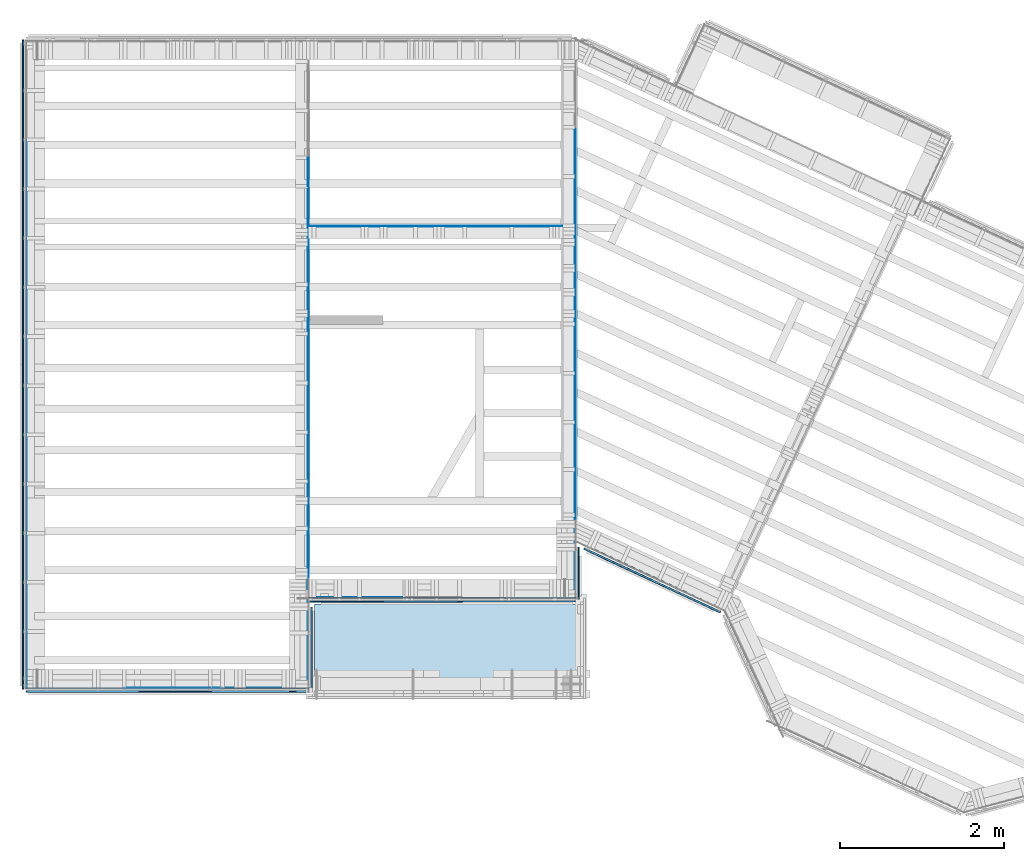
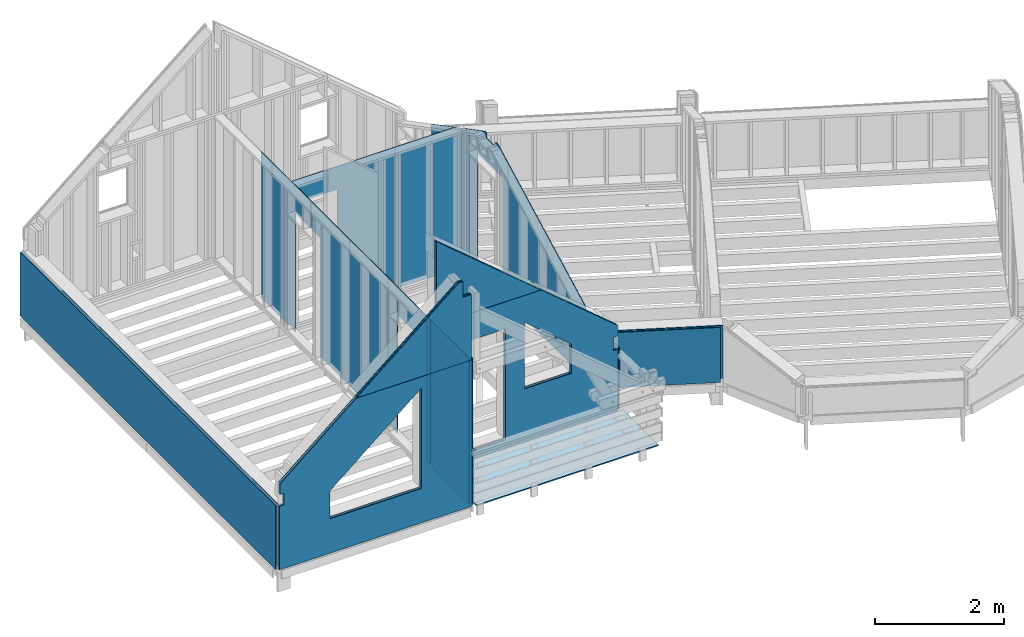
# One storey, part 22 of 24: 41 plates.
"""IFC2X3 building model written with IfcOpenShell, lengths in metres."""

from ifc_helpers import new_model, si_unit, direction, frame, origin_with_axes, place, context, subcontext, project, spatial, faceted_brep, material, element, save


model = new_model("IFC2X3")

# Units and contexts
model_context = context("Model", 3, precision=1e-06, world=origin_with_axes(), true_north=direction((0.0, 1.0, 0.0)))
body_context = subcontext(model_context, "Body", "Model", "MODEL_VIEW")
ifc_project = project(units=[si_unit("LENGTHUNIT", "METRE"), si_unit("AREAUNIT", "SQUARE_METRE"), si_unit("VOLUMEUNIT", "CUBIC_METRE"), si_unit("PLANEANGLEUNIT", "RADIAN")], contexts=[model_context])

# Site, building, storey
site_placement = place(None, origin_with_axes())
site = spatial("IfcSite", under=ifc_project, at=site_placement, CompositionType="ELEMENT")
building_placement = place(site_placement, origin_with_axes())
building = spatial("IfcBuilding", under=site, at=building_placement, Name="Building 1", CompositionType="ELEMENT")
storey_placement = place(building_placement, origin_with_axes())
storey = spatial("IfcBuildingStorey", under=building, at=storey_placement, Name="Premier Etage", CompositionType="ELEMENT", Elevation=0.0)

# Plates
ifc_material_1 = material(Name="OSB")
plate_1_placement = place(storey_placement, frame((6.702, 3.8494744, 2.81), z_axis=(1.0, 0.0, 0.0), x_axis=(0.0, 0.0, 1.0)))
element("IfcPlate", 1, at=plate_1_placement, inside=storey, material=ifc_material_1, Name="Panneau de contreventement MFP", context=body_context, shape_type="Brep", body=[
    faceted_brep([(1.9990035, 0.598, 0.006), (2.624819, -0.598, 0.006), (2.624819, -0.598, -0.006), (1.9990035, 0.598, -0.006), (0.0, -0.598, 0.006), (0.0, -0.598, -0.006), (0.0, 0.598, 0.006), (0.0, 0.598, -0.006)], [[[0, 1, 2, 3]], [[2, 1, 4, 5]], [[1, 0, 6, 4]], [[5, 4, 6, 7]], [[0, 3, 7, 6]], [[3, 2, 5, 7]]]),
])
plate_2_placement = place(storey_placement, frame((0.006, 6.098, 4.0228151), z_axis=(-1.0, 0.0, 0.0), x_axis=(0.0, 0.0, -1.0)))
element("IfcPlate", 2, at=plate_2_placement, inside=storey, material=ifc_material_1, Name="Panneau de contreventement MFP", context=body_context, shape_type="Brep", body=[
    faceted_brep([(1.2128151, 0.598, -0.006), (0.0, 0.598, -0.006), (0.0, 0.598, 0.006), (1.2128151, 0.598, 0.006), (0.0, -0.598, -0.006), (0.0, -0.598, 0.006), (1.2128151, -0.598, -0.006), (1.2128151, -0.598, 0.006)], [[[0, 1, 2, 3]], [[2, 1, 4, 5]], [[1, 0, 6, 4]], [[5, 4, 6, 7]], [[0, 3, 7, 6]], [[3, 2, 5, 7]]]),
])
plate_3_placement = place(storey_placement, frame((3.442, 0.61, 2.81), z_axis=(1.0, 0.0, 0.0), x_axis=(0.0, 0.0, 1.0)))
element("IfcPlate", 3, at=plate_3_placement, inside=storey, material=ifc_material_1, Name="Panneau de contreventement MFP", context=body_context, shape_type="Brep", body=[
    faceted_brep([(0.0, -0.5028281, -0.006), (0.04, -0.5028281, -0.006), (0.04, -0.5028281, 0.006), (0.0, -0.5028281, 0.006), (0.04, -0.598, -0.006), (0.04, -0.598, 0.006), (0.0, 0.598, 0.006), (0.0, 0.598, -0.006), (2.7704713, -0.598, 0.006), (2.7704713, 0.598, 0.006), (2.7704713, -0.598, -0.006), (2.7704713, 0.598, -0.006)], [[[0, 1, 2, 3]], [[1, 4, 5, 2]], [[0, 3, 6, 7]], [[3, 2, 5, 8, 9, 6]], [[5, 4, 10, 8]], [[1, 0, 7, 11, 10, 4]], [[8, 10, 11, 9]], [[9, 11, 7, 6]]]),
])
plate_4_placement = place(storey_placement, frame((1.8162754, 0.006, 5.5854713), z_axis=(0.0, -1.0, 0.0), x_axis=(0.0, 0.0, 1.0)))
element("IfcPlate", 4, at=plate_4_placement, inside=storey, material=ifc_material_1, Name="Panneau de contreventement MFP", context=body_context, shape_type="Brep", body=[
    faceted_brep([(0.0, -0.4317246, -0.006), (0.7245199, -0.4317246, -0.006), (0.7245199, -0.4317246, 0.006), (0.0, -0.4317246, 0.006), (0.0, 0.4317246, -0.006), (0.0, 0.4317246, 0.006)], [[[0, 1, 2, 3]], [[2, 1, 4, 5]], [[1, 0, 4]], [[0, 3, 5, 4]], [[3, 2, 5]]]),
])
ifc_material_2 = material(Name="Mélèze")
plate_5_placement = place(storey_placement, frame((1.724, -0.0355, 2.81), z_axis=(0.0, -1.0, 0.0), x_axis=(0.0, 0.0, 1.0)))
element("IfcPlate", 5, at=plate_5_placement, inside=storey, material=ifc_material_2, Name="Bardage", context=body_context, shape_type="Brep", body=[
    faceted_brep([(1.4228151, 1.709, -0.0105), (1.4228151, 1.709, 0.0105), (1.6262817, 1.709, 0.0105), (1.6262817, 1.709, -0.0105), (2.7704713, 0.3454079, 0.0105), (2.7704713, 0.3454079, -0.0105), (1.4228151, 1.639, 0.0105), (1.2078151, 1.639, 0.0105), (1.2078151, 1.724, 0.0105), (0.0, 1.724, 0.0105), (0.0, -1.724, 0.0105), (2.7704713, -1.724, 0.0105), (1.1768766, 0.82, 0.0105), (2.553, -0.82, 0.0105), (0.653, -0.82, 0.0105), (0.653, 0.82, 0.0105), (1.2078151, 1.639, -0.0105), (1.2078151, 1.724, -0.0105), (1.4228151, 1.639, -0.0105), (0.0, 1.724, -0.0105), (2.553, -0.82, -0.0105), (0.653, -0.82, -0.0105), (0.653, 0.82, -0.0105), (1.1768766, 0.82, -0.0105), (2.7704713, -1.724, -0.0105), (0.0, -1.724, -0.0105)], [[[0, 1, 2, 3]], [[3, 2, 4, 5]], [[2, 1, 6, 7, 8, 9, 10, 11, 4], [12, 13, 14, 15]], [[8, 7, 16, 17]], [[7, 6, 18, 16]], [[1, 0, 18, 6]], [[8, 17, 19, 9]], [[20, 21, 14, 13]], [[21, 22, 15, 14]], [[23, 20, 13, 12]], [[22, 23, 12, 15]], [[0, 3, 5, 24, 25, 19, 17, 16, 18], [20, 23, 22, 21]], [[10, 25, 24, 11]], [[9, 19, 25, 10]], [[5, 4, 11, 24]]]),
])
plate_6_placement = place(storey_placement, frame((6.702, 5.0494744, 2.81), z_axis=(1.0, 0.0, 0.0), x_axis=(0.0, 0.0, 1.0)))
element("IfcPlate", 6, at=plate_6_placement, inside=storey, material=ifc_material_1, Name="Panneau de contreventement MFP", context=body_context, shape_type="Brep", body=[
    faceted_brep([(2.8, 0.2672104, -0.006), (2.626912, 0.598, -0.006), (2.626912, 0.598, 0.006), (2.8, 0.2672104, 0.006), (0.0, 0.598, -0.006), (0.0, 0.598, 0.006), (2.8, 0.211449, -0.006), (2.7043053, 0.211449, -0.006), (2.7043053, -0.0824369, -0.006), (2.8, -0.0824369, -0.006), (2.8, -0.1270796, -0.006), (2.5535876, -0.598, -0.006), (0.0, -0.598, -0.006), (0.0, -0.3507432, -0.006), (2.251, -0.3507432, -0.006), (2.251, 0.4292568, -0.006), (0.0, 0.4292568, -0.006), (2.8, -0.1270796, 0.006), (2.5535876, -0.598, 0.006), (2.8, -0.0824369, 0.006), (2.7043053, 0.211449, 0.006), (2.7043053, -0.0824369, 0.006), (2.8, 0.211449, 0.006), (2.251, -0.3507432, 0.006), (2.251, 0.4292568, 0.006), (0.0, -0.3507432, 0.006), (0.0, 0.4292568, 0.006), (0.0, -0.598, 0.006)], [[[0, 1, 2, 3]], [[2, 1, 4, 5]], [[1, 0, 6, 7, 8, 9, 10, 11, 12, 13, 14, 15, 16, 4]], [[11, 10, 17, 18]], [[17, 10, 9, 19]], [[8, 7, 20, 21]], [[7, 6, 22, 20]], [[0, 3, 22, 6]], [[23, 24, 15, 14]], [[13, 25, 23, 14]], [[26, 16, 15, 24]], [[5, 4, 16, 26]], [[12, 27, 25, 13]], [[11, 18, 27, 12]], [[3, 2, 5, 26, 24, 23, 25, 27, 18, 17, 19, 21, 20, 22]], [[21, 19, 9, 8]]]),
])
plate_7_placement = place(storey_placement, frame((6.7435, 1.4080203, 2.81), z_axis=(1.0, 0.0, 0.0), x_axis=(0.0, 0.0, 1.0)))
element("IfcPlate", 7, at=plate_7_placement, inside=storey, material=ifc_material_2, Name="Bardage", context=body_context, shape_type="Brep", body=[
    faceted_brep([(1.1678151, -0.3151922, 0.0105), (1.1678151, 0.3151922, 0.0105), (0.0, 0.3151922, 0.0105), (0.0, -0.3151922, 0.0105), (0.0, -0.3151922, -0.0105), (0.0, 0.3151922, -0.0105), (1.1678151, 0.3151922, -0.0105), (1.1678151, -0.3151922, -0.0105)], [[[0, 1, 2, 3]], [[4, 3, 2, 5]], [[6, 7, 4, 5]], [[1, 6, 5, 2]], [[0, 7, 6, 1]], [[7, 0, 3, 4]]]),
])
plate_8_placement = place(storey_placement, frame((0.006, 0.354, 4.0228151), z_axis=(-1.0, 0.0, 0.0), x_axis=(0.0, 0.0, -1.0)))
element("IfcPlate", 8, at=plate_8_placement, inside=storey, material=ifc_material_1, Name="Panneau de contreventement MFP", context=body_context, shape_type="Brep", body=[
    faceted_brep([(0.0, -0.342, -0.006), (1.2128151, -0.342, -0.006), (1.2128151, -0.342, 0.006), (0.0, -0.342, 0.006), (1.2128151, 0.192, -0.006), (1.2128151, 0.192, 0.006), (0.0, 0.342, -0.006), (1.1728151, 0.342, -0.006), (1.1728151, 0.192, -0.006), (1.1728151, 0.342, 0.006), (1.1728151, 0.192, 0.006), (0.0, 0.342, 0.006)], [[[0, 1, 2, 3]], [[2, 1, 4, 5]], [[1, 0, 6, 7, 8, 4]], [[9, 10, 8, 7]], [[10, 5, 4, 8]], [[9, 7, 6, 11]], [[3, 2, 5, 10, 9, 11]], [[0, 3, 11, 6]]]),
])
plate_9_placement = place(storey_placement, frame((0.006, 4.898, 4.0228151), z_axis=(-1.0, 0.0, 0.0), x_axis=(0.0, 0.0, -1.0)))
element("IfcPlate", 9, at=plate_9_placement, inside=storey, material=ifc_material_1, Name="Panneau de contreventement MFP", context=body_context, shape_type="Brep", body=[
    faceted_brep([(1.2128151, 0.598, -0.006), (0.0, 0.598, -0.006), (0.0, 0.598, 0.006), (1.2128151, 0.598, 0.006), (0.0, -0.598, -0.006), (0.0, -0.598, 0.006), (1.2128151, -0.598, -0.006), (1.2128151, -0.598, 0.006)], [[[0, 1, 2, 3]], [[2, 1, 4, 5]], [[1, 0, 6, 4]], [[5, 4, 6, 7]], [[0, 3, 7, 6]], [[3, 2, 5, 7]]]),
])
plate_10_placement = place(storey_placement, frame((6.278, 1.1068281, 2.81), z_axis=(0.0, 1.0, 0.0), x_axis=(0.0, 0.0, 1.0)))
element("IfcPlate", 10, at=plate_10_placement, inside=storey, material=ifc_material_1, Name="Panneau de contreventement MFP", context=body_context, shape_type="Brep", body=[
    faceted_brep([(1.4228151, 0.415, -0.006), (1.4228151, 0.415, 0.006), (1.6261452, 0.415, 0.006), (1.6261452, 0.415, -0.006), (2.3351844, -0.43, 0.006), (2.3351844, -0.43, -0.006), (1.4228151, 0.345, 0.006), (1.1678151, 0.345, 0.006), (1.1678151, 0.43, 0.006), (0.0, 0.43, 0.006), (0.0, -0.43, 0.006), (1.003, -0.43, 0.006), (1.003, -0.4054611, 0.006), (1.5561563, -0.4054611, 0.006), (1.5767469, -0.43, 0.006), (1.4228151, 0.345, -0.006), (1.1678151, 0.345, -0.006), (1.1678151, 0.43, -0.006), (0.0, 0.43, -0.006), (1.003, -0.4054611, -0.006), (1.5561563, -0.4054611, -0.006), (1.003, -0.43, -0.006), (1.5767469, -0.43, -0.006), (0.0, -0.43, -0.006)], [[[0, 1, 2, 3]], [[3, 2, 4, 5]], [[2, 1, 6, 7, 8, 9, 10, 11, 12, 13, 14, 4]], [[1, 0, 15, 6]], [[15, 16, 7, 6]], [[16, 17, 8, 7]], [[8, 17, 18, 9]], [[19, 20, 13, 12]], [[21, 19, 12, 11]], [[20, 22, 14, 13]], [[0, 3, 5, 22, 20, 19, 21, 23, 18, 17, 16, 15]], [[21, 11, 10, 23]], [[14, 22, 5, 4]], [[23, 10, 9, 18]]]),
])
plate_11_placement = place(storey_placement, frame((5.07925, 1.0653281, 2.81), z_axis=(-1.0, 0.0, 0.0), x_axis=(0.0, 0.0, 1.0)))
element("IfcPlate", 11, at=plate_11_placement, inside=storey, material=ifc_material_2, Name="Bardage", context=body_context, shape_type="Brep", body=[
    faceted_brep([(1.4228151, -0.0105, -1.61375), (1.4228151, 0.0105, -1.61375), (1.6261452, 0.0105, -1.61375), (1.6261452, -0.0105, -1.61375), (2.7704713, 0.0105, -0.2499953), (2.7704713, -0.0105, -0.2499953), (1.4228151, 0.0105, -1.54375), (1.1678151, 0.0105, -1.54375), (1.1678151, 0.0105, -1.62875), (0.0, 0.0105, -1.62875), (0.0, 0.0105, 1.62875), (2.7704713, 0.0105, 1.62875), (1.5561563, 0.0105, -0.7932889), (2.261, 0.0105, 0.0467111), (1.003, 0.0105, 0.0467111), (1.003, 0.0105, -0.7932889), (2.261, 0.0105, 0.3901003), (2.261, 0.0105, 1.2301003), (0.153, 0.0105, 1.2301003), (0.153, 0.0105, 0.3901003), (1.4228151, -0.0105, -1.54375), (1.1678151, -0.0105, -1.54375), (1.1678151, -0.0105, -1.62875), (0.0, -0.0105, -1.62875), (2.7704713, -0.0105, 1.62875), (0.0, -0.0105, 1.62875), (2.261, -0.0105, 0.3901003), (0.153, -0.0105, 0.3901003), (0.153, -0.0105, 1.2301003), (2.261, -0.0105, 1.2301003), (2.261, -0.0105, 0.0467111), (1.5561563, -0.0105, -0.7932889), (1.003, -0.0105, -0.7932889), (1.003, -0.0105, 0.0467111)], [[[0, 1, 2, 3]], [[3, 2, 4, 5]], [[2, 1, 6, 7, 8, 9, 10, 11, 4], [12, 13, 14, 15], [16, 17, 18, 19]], [[7, 6, 20, 21]], [[8, 7, 21, 22]], [[1, 0, 20, 6]], [[8, 22, 23, 9]], [[0, 3, 5, 24, 25, 23, 22, 21, 20], [26, 27, 28, 29], [30, 31, 32, 33]], [[15, 14, 33, 32]], [[12, 15, 32, 31]], [[13, 12, 31, 30]], [[14, 13, 30, 33]], [[18, 17, 29, 28]], [[19, 18, 28, 27]], [[16, 19, 27, 26]], [[17, 16, 26, 29]], [[23, 25, 10, 9]], [[10, 25, 24, 11]], [[5, 4, 11, 24]]]),
])
plate_12_placement = place(storey_placement, frame((6.702, 2.0494744, 3.3964076), z_axis=(1.0, 0.0, 0.0), x_axis=(0.0, -1.0, 0.0)))
element("IfcPlate", 12, at=plate_12_placement, inside=storey, material=ifc_material_1, Name="Panneau de contreventement MFP", context=body_context, shape_type="Brep", body=[
    faceted_brep([(0.2408158, 0.5864076, -0.006), (0.2408158, 0.5464076, -0.006), (0.2408158, 0.5464076, 0.006), (0.2408158, 0.5864076, 0.006), (0.7866462, 0.5864076, 0.006), (0.7866462, 0.5864076, -0.006), (0.0, 0.5464076, 0.006), (0.0, 0.5464076, -0.006), (0.7866462, 0.5464076, -0.006), (0.9366462, 0.5464076, -0.006), (0.9366462, -0.5864076, -0.006), (0.3237619, -0.5864076, -0.006), (0.3237619, -0.4622333, -0.006), (0.132606, -0.4622333, -0.006), (0.132606, -0.5864076, -0.006), (0.0, -0.5864076, -0.006), (0.3237619, -0.4622333, 0.006), (0.132606, -0.4622333, 0.006), (0.0, -0.5864076, 0.006), (0.132606, -0.5864076, 0.006), (0.3237619, -0.5864076, 0.006), (0.9366462, -0.5864076, 0.006), (0.9366462, 0.5464076, 0.006), (0.7866462, 0.5464076, 0.006)], [[[0, 1, 2, 3]], [[0, 3, 4, 5]], [[6, 2, 1, 7]], [[1, 0, 5, 8, 9, 10, 11, 12, 13, 14, 15, 7]], [[16, 17, 13, 12]], [[2, 6, 18, 19, 17, 16, 20, 21, 22, 23, 4, 3]], [[20, 11, 10, 21]], [[17, 19, 14, 13]], [[6, 7, 15, 18]], [[23, 22, 9, 8]], [[5, 4, 23, 8]], [[9, 22, 21, 10]], [[14, 19, 18, 15]], [[12, 11, 20, 16]]]),
])
plate_13_placement = place(storey_placement, frame((-0.0355, 3.954, 2.81), z_axis=(-1.0, 0.0, 0.0), x_axis=(0.0, 0.0, 1.0)))
element("IfcPlate", 13, at=plate_13_placement, inside=storey, material=ifc_material_2, Name="Bardage", context=body_context, shape_type="Brep", body=[
    faceted_brep([(1.2078151, 3.962, 0.0105), (1.2078151, 3.962, -0.0105), (0.0, 3.962, -0.0105), (0.0, 3.962, 0.0105), (1.2078151, -3.962, -0.0105), (0.0, -3.962, -0.0105), (1.2078151, -3.962, 0.0105), (0.0, -3.962, 0.0105)], [[[0, 1, 2, 3]], [[1, 4, 5, 2]], [[6, 0, 3, 7]], [[6, 4, 1, 0]], [[2, 5, 7, 3]], [[4, 6, 7, 5]]]),
])
plate_14_placement = place(storey_placement, frame((3.7995, 5.6412176, 2.81), z_axis=(0.0, 1.0, 0.0), x_axis=(0.0, 0.0, 1.0)))
element("IfcPlate", 14, at=plate_14_placement, inside=storey, material=ifc_material_1, Name="Panneau de contreventement MFP", context=body_context, shape_type="Brep", body=[
    faceted_brep([(2.251, 0.3515, -0.006), (2.251, 0.3515, 0.006), (2.6893053, 0.3515, 0.006), (2.6893053, 0.3515, -0.006), (2.6893053, -0.3515, -0.006), (0.0, -0.3515, -0.006), (0.0, -0.2615, -0.006), (2.251, -0.2615, -0.006), (2.251, -0.2615, 0.006), (2.6893053, -0.3515, 0.006), (0.0, -0.2615, 0.006), (0.0, -0.3515, 0.006)], [[[0, 1, 2, 3]], [[0, 3, 4, 5, 6, 7]], [[1, 0, 7, 8]], [[3, 2, 9, 4]], [[2, 1, 8, 10, 11, 9]], [[6, 10, 8, 7]], [[10, 6, 5, 11]], [[4, 9, 11, 5]]]),
])
plate_15_placement = place(storey_placement, frame((0.006, 3.698, 4.0228151), z_axis=(-1.0, 0.0, 0.0), x_axis=(0.0, 0.0, -1.0)))
element("IfcPlate", 15, at=plate_15_placement, inside=storey, material=ifc_material_1, Name="Panneau de contreventement MFP", context=body_context, shape_type="Brep", body=[
    faceted_brep([(1.2128151, 0.598, -0.006), (0.0, 0.598, -0.006), (0.0, 0.598, 0.006), (1.2128151, 0.598, 0.006), (0.0, -0.598, -0.006), (0.0, -0.598, 0.006), (1.2128151, -0.598, -0.006), (1.2128151, -0.598, 0.006)], [[[0, 1, 2, 3]], [[2, 1, 4, 5]], [[1, 0, 6, 4]], [[5, 4, 6, 7]], [[0, 3, 7, 6]], [[3, 2, 5, 7]]]),
])
plate_16_placement = place(storey_placement, frame((0.598, 0.006, 2.81), z_axis=(0.0, -1.0, 0.0), x_axis=(0.0, 0.0, 1.0)))
element("IfcPlate", 16, at=plate_16_placement, inside=storey, material=ifc_material_1, Name="Panneau de contreventement MFP", context=body_context, shape_type="Brep", body=[
    faceted_brep([(1.4228151, 0.583, -0.006), (1.4228151, 0.583, 0.006), (1.6262817, 0.583, 0.006), (1.6262817, 0.583, -0.006), (2.6172584, -0.598, 0.006), (2.6172584, -0.598, -0.006), (1.4228151, 0.513, 0.006), (1.2078151, 0.513, 0.006), (1.2078151, 0.598, 0.006), (0.0, 0.598, 0.006), (0.0, -0.598, 0.006), (0.653, -0.598, 0.006), (0.653, -0.306, 0.006), (1.1768766, -0.306, 0.006), (1.4218937, -0.598, 0.006), (1.2078151, 0.513, -0.006), (1.2078151, 0.598, -0.006), (1.4228151, 0.513, -0.006), (0.0, 0.598, -0.006), (0.653, -0.598, -0.006), (0.653, -0.306, -0.006), (1.1768766, -0.306, -0.006), (1.4218937, -0.598, -0.006), (0.0, -0.598, -0.006)], [[[0, 1, 2, 3]], [[3, 2, 4, 5]], [[2, 1, 6, 7, 8, 9, 10, 11, 12, 13, 14, 4]], [[8, 7, 15, 16]], [[7, 6, 17, 15]], [[1, 0, 17, 6]], [[8, 16, 18, 9]], [[11, 19, 20, 12]], [[13, 12, 20, 21]], [[22, 14, 13, 21]], [[14, 22, 5, 4]], [[19, 11, 10, 23]], [[23, 10, 9, 18]], [[0, 3, 5, 22, 21, 20, 19, 23, 18, 16, 15, 17]]]),
])
plate_17_placement = place(storey_placement, frame((2.924, 0.006, 2.81), z_axis=(0.0, -1.0, 0.0), x_axis=(0.0, 0.0, 1.0)))
element("IfcPlate", 17, at=plate_17_placement, inside=storey, material=ifc_material_1, Name="Panneau de contreventement MFP", context=body_context, shape_type="Brep", body=[
    faceted_brep([(0.653, 0.524, 0.006), (0.653, 0.38, 0.006), (0.653, 0.38, -0.006), (0.653, 0.524, -0.006), (2.553, 0.38, 0.006), (2.4321697, 0.524, 0.006), (2.4321697, 0.524, -0.006), (2.553, 0.38, -0.006), (2.7704713, 0.524, 0.006), (2.7704713, 0.524, -0.006), (0.0, 0.524, -0.006), (0.0, 0.524, 0.006), (2.7704713, -0.524, -0.006), (0.0, -0.524, -0.006), (0.0, -0.524, 0.006), (2.7704713, -0.524, 0.006)], [[[0, 1, 2, 3]], [[4, 5, 6, 7]], [[1, 4, 7, 2]], [[6, 5, 8, 9]], [[0, 3, 10, 11]], [[10, 3, 2, 7, 6, 9, 12, 13]], [[1, 0, 11, 14, 15, 8, 5, 4]], [[11, 10, 13, 14]], [[12, 15, 14, 13]], [[9, 8, 15, 12]]]),
])
plate_18_placement = place(storey_placement, frame((1.798, 0.006, 2.81), z_axis=(0.0, -1.0, 0.0), x_axis=(0.0, 0.0, 1.0)))
element("IfcPlate", 18, at=plate_18_placement, inside=storey, material=ifc_material_1, Name="Panneau de contreventement MFP", context=body_context, shape_type="Brep", body=[
    faceted_brep([(0.653, -0.598, 0.006), (0.653, 0.598, 0.006), (0.0, 0.598, 0.006), (0.0, -0.598, 0.006), (0.653, -0.598, -0.006), (0.0, -0.598, -0.006), (0.653, 0.598, -0.006), (0.0, 0.598, -0.006)], [[[0, 1, 2, 3]], [[4, 0, 3, 5]], [[1, 0, 4, 6]], [[1, 6, 7, 2]], [[4, 5, 7, 6]], [[5, 3, 2, 7]]]),
])
plate_19_placement = place(storey_placement, frame((3.4835, 0.4939141, 2.81), z_axis=(1.0, 0.0, 0.0), x_axis=(0.0, 0.0, 1.0)))
element("IfcPlate", 19, at=plate_19_placement, inside=storey, material=ifc_material_2, Name="Bardage", context=body_context, shape_type="Brep", body=[
    faceted_brep([(2.7704713, -0.5019141, -0.0105), (0.0, -0.5019141, -0.0105), (0.0, 0.5019141, -0.0105), (2.7704713, 0.5019141, -0.0105), (2.7704713, -0.5019141, 0.0105), (2.7704713, 0.5019141, 0.0105), (0.0, -0.5019141, 0.0105), (0.0, 0.5019141, 0.0105)], [[[0, 1, 2, 3]], [[4, 0, 3, 5]], [[6, 4, 5, 7]], [[1, 6, 7, 2]], [[6, 1, 0, 4]], [[2, 7, 5, 3]]]),
])
plate_20_placement = place(storey_placement, frame((3.442, 4.3308281, 2.81), z_axis=(1.0, 0.0, 0.0), x_axis=(0.0, 0.0, 1.0)))
element("IfcPlate", 20, at=plate_20_placement, inside=storey, material=ifc_material_1, Name="Panneau de contreventement MFP", context=body_context, shape_type="Brep", body=[
    faceted_brep([(2.251, -0.598, 0.006), (2.251, -0.598, -0.006), (2.7704713, -0.598, -0.006), (2.7704713, -0.598, 0.006), (2.7704713, 0.598, 0.006), (0.0, 0.598, 0.006), (0.0, -0.2917807, 0.006), (2.251, -0.2917807, 0.006), (2.251, -0.2917807, -0.006), (2.7704713, 0.598, -0.006), (0.0, 0.598, -0.006), (0.0, -0.2917807, -0.006)], [[[0, 1, 2, 3]], [[0, 3, 4, 5, 6, 7]], [[1, 0, 7, 8]], [[3, 2, 9, 4]], [[10, 5, 4, 9]], [[5, 10, 11, 6]], [[2, 1, 8, 11, 10, 9]], [[6, 11, 8, 7]]]),
])
plate_21_placement = place(storey_placement, frame((4.3868932, 1.0653281, 5.5854713), z_axis=(-1.0, 0.0, 0.0), x_axis=(0.0, 0.0, 1.0)))
element("IfcPlate", 21, at=plate_21_placement, inside=storey, material=ifc_material_2, Name="Bardage", context=body_context, shape_type="Brep", body=[
    faceted_brep([(0.0, -0.0105, -0.9363932), (0.0, 0.0105, -0.9363932), (1.5714545, 0.0105, 0.9363932), (1.5714545, -0.0105, 0.9363932), (0.0, 0.0105, 0.9363932), (0.0, -0.0105, 0.9363932)], [[[0, 1, 2, 3]], [[2, 1, 4]], [[1, 0, 5, 4]], [[3, 2, 4, 5]], [[0, 3, 5]]]),
])
plate_22_placement = place(storey_placement, frame((8.5279699, 0.9533724, 3.3343204), z_axis=(-0.4226183, -0.9063078, 0.0), x_axis=(-0.9063078, 0.4226183, 0.0)))
element("IfcPlate", 22, at=plate_22_placement, inside=storey, material=ifc_material_1, Name="Panneau de contreventement MFP", context=body_context, shape_type="Brep", body=[
    faceted_brep([(0.0, 0.4843204, 0.006), (0.15, 0.4843204, 0.006), (0.15, 0.4843204, -0.006), (0.0, 0.4843204, -0.006), (0.15, 0.5243204, 0.006), (0.15, 0.5243204, -0.006), (0.0, -0.5243204, -0.006), (0.0, -0.5243204, 0.006), (1.8554963, 0.5243204, -0.006), (1.8554963, 0.4843204, -0.006), (2.0054963, 0.4843204, -0.006), (2.0054963, -0.5243204, -0.006), (1.8554963, 0.4843204, 0.006), (2.0054963, 0.4843204, 0.006), (1.8554963, 0.5243204, 0.006), (2.0054963, -0.5243204, 0.006)], [[[0, 1, 2, 3]], [[1, 4, 5, 2]], [[0, 3, 6, 7]], [[3, 2, 5, 8, 9, 10, 11, 6]], [[12, 13, 10, 9]], [[8, 14, 12, 9]], [[5, 4, 14, 8]], [[10, 13, 15, 11]], [[11, 15, 7, 6]], [[1, 0, 7, 15, 13, 12, 14, 4]]]),
])
plate_23_placement = place(storey_placement, frame((0.006, 2.498, 4.0228151), z_axis=(-1.0, 0.0, 0.0), x_axis=(0.0, 0.0, -1.0)))
element("IfcPlate", 23, at=plate_23_placement, inside=storey, material=ifc_material_1, Name="Panneau de contreventement MFP", context=body_context, shape_type="Brep", body=[
    faceted_brep([(1.2128151, 0.598, -0.006), (0.0, 0.598, -0.006), (0.0, 0.598, 0.006), (1.2128151, 0.598, 0.006), (0.0, -0.598, -0.006), (0.0, -0.598, 0.006), (1.2128151, -0.598, -0.006), (1.2128151, -0.598, 0.006)], [[[0, 1, 2, 3]], [[2, 1, 4, 5]], [[1, 0, 6, 4]], [[5, 4, 6, 7]], [[0, 3, 7, 6]], [[3, 2, 5, 7]]]),
])
plate_24_placement = place(storey_placement, frame((2.4162754, -0.0355, 5.5854713), z_axis=(0.0, -1.0, 0.0), x_axis=(0.0, 0.0, 1.0)))
element("IfcPlate", 24, at=plate_24_placement, inside=storey, material=ifc_material_2, Name="Bardage", context=body_context, shape_type="Brep", body=[
    faceted_brep([(1.24, -0.8727246, -0.0105), (1.5367683, -0.8726432, -0.0105), (1.5367683, -0.8726432, 0.0105), (1.24, -0.8727246, 0.0105), (1.24, -1.0317246, -0.0105), (1.24, -1.0317246, 0.0105), (0.0, -1.0317246, 0.0105), (0.0, -1.0317246, -0.0105), (1.5367683, -0.7997246, 0.0105), (0.0, 1.0317246, 0.0105), (0.0, 1.0317246, -0.0105), (1.5367683, -0.7997246, -0.0105)], [[[0, 1, 2, 3]], [[4, 0, 3, 5]], [[4, 5, 6, 7]], [[5, 3, 2, 8, 9, 6]], [[10, 9, 8, 11]], [[9, 10, 7, 6]], [[0, 4, 7, 10, 11, 1]], [[2, 1, 11, 8]]]),
])
plate_25_placement = place(storey_placement, frame((2.85, 0.006, 5.5854713), z_axis=(0.0, -1.0, 0.0), x_axis=(0.0, 0.0, 1.0)))
element("IfcPlate", 25, at=plate_25_placement, inside=storey, material=ifc_material_1, Name="Panneau de contreventement MFP", context=body_context, shape_type="Brep", body=[
    faceted_brep([(1.5367683, -0.366, 0.006), (1.5367683, -0.366, -0.006), (0.7278763, 0.598, -0.006), (0.7278763, 0.598, 0.006), (0.0, 0.598, -0.006), (0.0, 0.598, 0.006), (1.5367683, -0.4389187, -0.006), (1.24, -0.439, -0.006), (1.24, -0.598, -0.006), (0.0, -0.598, -0.006), (1.5367683, -0.4389187, 0.006), (0.0, -0.598, 0.006), (1.24, -0.598, 0.006), (1.24, -0.439, 0.006)], [[[0, 1, 2, 3]], [[3, 2, 4, 5]], [[2, 1, 6, 7, 8, 9, 4]], [[10, 6, 1, 0]], [[0, 3, 5, 11, 12, 13, 10]], [[5, 4, 9, 11]], [[7, 6, 10, 13]], [[8, 7, 13, 12]], [[8, 12, 11, 9]]]),
])
plate_26_placement = place(storey_placement, frame((5.953, 5.6412176, 2.81), z_axis=(0.0, 1.0, 0.0), x_axis=(0.0, 0.0, 1.0)))
element("IfcPlate", 26, at=plate_26_placement, inside=storey, material=ifc_material_1, Name="Panneau de contreventement MFP", context=body_context, shape_type="Brep", body=[
    faceted_brep([(2.6418553, 0.4803532, 0.006), (2.6893053, 0.4803532, 0.006), (2.6893053, 0.4803532, -0.006), (2.6418553, 0.4803532, -0.006), (2.6131497, 0.598, -0.006), (2.6893053, -0.598, -0.006), (0.0, -0.598, -0.006), (0.0, 0.598, -0.006), (2.6131497, 0.598, 0.006), (2.6893053, -0.598, 0.006), (0.0, 0.598, 0.006), (0.0, -0.598, 0.006)], [[[0, 1, 2, 3]], [[4, 3, 2, 5, 6, 7]], [[3, 4, 8, 0]], [[2, 1, 9, 5]], [[0, 8, 10, 11, 9, 1]], [[8, 4, 7, 10]], [[6, 11, 10, 7]], [[11, 6, 5, 9]]]),
])
plate_27_placement = place(storey_placement, frame((3.442, 1.2714141, 2.85), z_axis=(-1.0, 0.0, 0.0), x_axis=(0.0, 0.0, 1.0)))
element("IfcPlate", 27, at=plate_27_placement, inside=storey, material=ifc_material_1, Name="Panneau de contreventement MFP", context=body_context, shape_type="Brep", body=[
    faceted_brep([(2.7304713, -0.0594141, -0.006), (0.0, -0.0594141, -0.006), (0.0, 0.0594141, -0.006), (2.7304713, 0.0594141, -0.006), (0.0, -0.0594141, 0.006), (0.0, 0.0594141, 0.006), (2.7304713, -0.0594141, 0.006), (2.7304713, 0.0594141, 0.006)], [[[0, 1, 2, 3]], [[1, 4, 5, 2]], [[6, 0, 3, 7]], [[2, 5, 7, 3]], [[4, 6, 7, 5]], [[4, 1, 0, 6]]]),
])
plate_28_placement = place(storey_placement, frame((3.442, 5.5308281, 2.81), z_axis=(1.0, 0.0, 0.0), x_axis=(0.0, 0.0, 1.0)))
element("IfcPlate", 28, at=plate_28_placement, inside=storey, material=ifc_material_1, Name="Panneau de contreventement MFP", context=body_context, shape_type="Brep", body=[
    faceted_brep([(0.0, 0.0406105, 0.006), (0.0, 0.0406105, -0.006), (0.04, 0.0406105, -0.006), (0.04, 0.0406105, 0.006), (0.04, -0.1043895, 0.006), (0.04, -0.1043895, -0.006), (0.0, -0.1043895, -0.006), (0.0, -0.1043895, 0.006), (0.0, -0.598, 0.006), (2.7704713, -0.598, 0.006), (2.7704713, 0.598, 0.006), (2.251, 0.598, 0.006), (2.251, 0.1282193, 0.006), (0.0, 0.1282193, 0.006), (0.0, -0.598, -0.006), (0.0, 0.1282193, -0.006), (2.251, 0.598, -0.006), (2.7704713, 0.598, -0.006), (2.251, 0.1282193, -0.006), (2.7704713, -0.598, -0.006)], [[[0, 1, 2, 3]], [[4, 3, 2, 5]], [[6, 7, 4, 5]], [[0, 3, 4, 7, 8, 9, 10, 11, 12, 13]], [[7, 6, 14, 8]], [[1, 0, 13, 15]], [[16, 11, 10, 17]], [[11, 16, 18, 12]], [[2, 1, 15, 18, 16, 17, 19, 14, 6, 5]], [[15, 13, 12, 18]], [[9, 19, 17, 10]], [[19, 9, 8, 14]]]),
])
plate_29_placement = place(storey_placement, frame((3.442, 3.1308281, 2.81), z_axis=(1.0, 0.0, 0.0), x_axis=(0.0, 0.0, 1.0)))
element("IfcPlate", 29, at=plate_29_placement, inside=storey, material=ifc_material_1, Name="Panneau de contreventement MFP", context=body_context, shape_type="Brep", body=[
    faceted_brep([(0.0, -0.598, 0.006), (2.7704713, -0.598, 0.006), (2.7704713, 0.598, 0.006), (0.0, 0.598, 0.006), (0.0, -0.598, -0.006), (0.0, 0.598, -0.006), (2.7704713, -0.598, -0.006), (2.7704713, 0.598, -0.006)], [[[0, 1, 2, 3]], [[4, 0, 3, 5]], [[6, 4, 5, 7]], [[5, 3, 2, 7]], [[1, 6, 7, 2]], [[6, 1, 0, 4]]]),
])
plate_30_placement = place(storey_placement, frame((3.442, 6.3044141, 2.81), z_axis=(1.0, 0.0, 0.0), x_axis=(0.0, 0.0, 1.0)))
element("IfcPlate", 30, at=plate_30_placement, inside=storey, material=ifc_material_1, Name="Panneau de contreventement MFP", context=body_context, shape_type="Brep", body=[
    faceted_brep([(0.0, 0.171586, -0.006), (0.0, 0.171586, 0.006), (2.7704713, 0.171586, 0.006), (2.7704713, 0.171586, -0.006), (2.7704713, -0.171586, 0.006), (2.7704713, -0.171586, -0.006), (0.0, -0.171586, 0.006), (0.0, -0.171586, -0.006)], [[[0, 1, 2, 3]], [[3, 2, 4, 5]], [[2, 1, 6, 4]], [[1, 0, 7, 6]], [[0, 3, 5, 7]], [[5, 4, 6, 7]]]),
])
plate_31_placement = place(storey_placement, frame((3.442, 1.9308281, 2.81), z_axis=(1.0, 0.0, 0.0), x_axis=(0.0, 0.0, 1.0)))
element("IfcPlate", 31, at=plate_31_placement, inside=storey, material=ifc_material_1, Name="Panneau de contreventement MFP", context=body_context, shape_type="Brep", body=[
    faceted_brep([(2.7704713, 0.598, 0.006), (2.7704713, 0.598, -0.006), (0.0, 0.598, -0.006), (0.0, 0.598, 0.006), (0.0, 0.463, -0.006), (0.0, 0.463, 0.006), (2.7704713, -0.598, -0.006), (0.0, -0.598, -0.006), (0.0, -0.317, -0.006), (2.251, -0.317, -0.006), (2.251, 0.463, -0.006), (2.251, 0.463, 0.006), (0.0, -0.317, 0.006), (2.251, -0.317, 0.006), (0.0, -0.598, 0.006), (2.7704713, -0.598, 0.006)], [[[0, 1, 2, 3]], [[4, 5, 3, 2]], [[6, 7, 8, 9, 10, 4, 2, 1]], [[11, 5, 4, 10]], [[12, 13, 9, 8]], [[13, 11, 10, 9]], [[14, 15, 0, 3, 5, 11, 13, 12]], [[15, 6, 1, 0]], [[7, 14, 12, 8]], [[6, 15, 14, 7]]]),
])
plate_32_placement = place(storey_placement, frame((1.798, 0.006, 4.2352501), z_axis=(0.0, -1.0, 0.0), x_axis=(0.0, 0.0, 1.0)))
element("IfcPlate", 32, at=plate_32_placement, inside=storey, material=ifc_material_1, Name="Panneau de contreventement MFP", context=body_context, shape_type="Brep", body=[
    faceted_brep([(1.3452212, -0.598, -0.006), (1.0035632, -0.598, -0.006), (0.0, 0.598, -0.006), (1.1953647, 0.598, -0.006), (1.3452212, 0.4194079, -0.006), (1.3452212, -0.598, 0.006), (1.3452212, 0.4194079, 0.006), (1.1953647, 0.598, 0.006), (0.0, 0.598, 0.006), (1.0035632, -0.598, 0.006)], [[[0, 1, 2, 3, 4]], [[5, 0, 4, 6]], [[3, 7, 6, 4]], [[2, 8, 7, 3]], [[2, 1, 9, 8]], [[9, 1, 0, 5]], [[8, 9, 5, 6, 7]]]),
])
plate_33_placement = place(storey_placement, frame((6.702, 6.2494744, 2.81), z_axis=(1.0, 0.0, 0.0), x_axis=(0.0, 0.0, 1.0)))
element("IfcPlate", 33, at=plate_33_placement, inside=storey, material=ifc_material_1, Name="Panneau de contreventement MFP", context=body_context, shape_type="Brep", body=[
    faceted_brep([(2.5514946, 0.598, 0.006), (1.9256791, -0.598, 0.006), (1.9256791, -0.598, -0.006), (2.5514946, 0.598, -0.006), (0.0, -0.598, 0.006), (0.0, -0.598, -0.006), (0.0, 0.598, 0.006), (0.0, 0.598, -0.006)], [[[0, 1, 2, 3]], [[2, 1, 4, 5]], [[1, 0, 6, 4]], [[5, 4, 6, 7]], [[0, 3, 7, 6]], [[3, 2, 5, 7]]]),
])
plate_34_placement = place(storey_placement, frame((6.702, 2.6494744, 2.81), z_axis=(1.0, 0.0, 0.0), x_axis=(0.0, 0.0, 1.0)))
element("IfcPlate", 34, at=plate_34_placement, inside=storey, material=ifc_material_1, Name="Panneau de contreventement MFP", context=body_context, shape_type="Brep", body=[
    faceted_brep([(1.3710951, 0.598, -0.006), (1.3710951, 0.598, 0.006), (1.9969105, -0.598, 0.006), (1.9969105, -0.598, -0.006), (0.0, 0.598, 0.006), (0.0, -0.598, 0.006), (0.0, 0.598, -0.006), (0.0, -0.598, -0.006)], [[[0, 1, 2, 3]], [[2, 1, 4, 5]], [[1, 0, 6, 4]], [[0, 3, 7, 6]], [[7, 5, 4, 6]], [[3, 2, 5, 7]]]),
])
plate_35_placement = place(storey_placement, frame((4.753, 5.6412176, 2.81), z_axis=(0.0, 1.0, 0.0), x_axis=(0.0, 0.0, 1.0)))
element("IfcPlate", 35, at=plate_35_placement, inside=storey, material=ifc_material_1, Name="Panneau de contreventement MFP", context=body_context, shape_type="Brep", body=[
    faceted_brep([(0.0, -0.435, 0.006), (0.0, -0.435, -0.006), (2.251, -0.435, -0.006), (2.251, -0.435, 0.006), (0.0, 0.598, 0.006), (0.0, 0.598, -0.006), (2.6893053, -0.598, -0.006), (2.251, -0.598, -0.006), (2.6893053, 0.598, -0.006), (2.6893053, -0.598, 0.006), (2.6893053, 0.598, 0.006), (2.251, -0.598, 0.006)], [[[0, 1, 2, 3]], [[4, 5, 1, 0]], [[6, 7, 2, 1, 5, 8]], [[9, 6, 8, 10]], [[5, 4, 10, 8]], [[11, 9, 10, 4, 0, 3]], [[7, 11, 3, 2]], [[11, 7, 6, 9]]]),
])
plate_36_placement = place(storey_placement, frame((5.246, 1.1068281, 2.81), z_axis=(0.0, 1.0, 0.0), x_axis=(0.0, 0.0, 1.0)))
element("IfcPlate", 36, at=plate_36_placement, inside=storey, material=ifc_material_1, Name="Panneau de contreventement MFP", context=body_context, shape_type="Brep", body=[
    faceted_brep([(0.153, -0.598, -0.006), (0.153, -0.598, 0.006), (0.0, -0.598, 0.006), (0.0, -0.598, -0.006), (0.0, 0.598, -0.006), (1.003, 0.598, -0.006), (1.003, -0.2134611, -0.006), (2.261, -0.2134611, -0.006), (1.5801033, 0.598, -0.006), (2.3385408, 0.598, -0.006), (2.7704713, 0.0832453, -0.006), (2.7704713, -0.598, -0.006), (2.261, -0.598, -0.006), (2.261, -0.5568503, -0.006), (0.153, -0.5568503, -0.006), (0.0, 0.598, 0.006), (1.003, -0.2134611, 0.006), (2.261, -0.2134611, 0.006), (1.5801033, 0.598, 0.006), (1.003, 0.598, 0.006), (2.3385408, 0.598, 0.006), (0.153, -0.5568503, 0.006), (2.261, -0.5568503, 0.006), (2.261, -0.598, 0.006), (2.7704713, -0.598, 0.006), (2.7704713, 0.0832453, 0.006)], [[[0, 1, 2, 3]], [[0, 3, 4, 5, 6, 7, 8, 9, 10, 11, 12, 13, 14]], [[3, 2, 15, 4]], [[7, 6, 16, 17]], [[8, 7, 17, 18]], [[6, 5, 19, 16]], [[8, 18, 20, 9]], [[2, 1, 21, 22, 23, 24, 25, 20, 18, 17, 16, 19, 15]], [[1, 0, 14, 21]], [[14, 13, 22, 21]], [[24, 11, 10, 25]], [[12, 23, 22, 13]], [[23, 12, 11, 24]], [[9, 20, 25, 10]], [[19, 5, 4, 15]]]),
])
plate_37_placement = place(storey_placement, frame((7.6405185, 1.3214075, 2.81), z_axis=(-0.4226183, -0.9063078, 0.0), x_axis=(0.0, 0.0, 1.0)))
element("IfcPlate", 37, at=plate_37_placement, inside=storey, material=ifc_material_2, Name="Bardage", context=body_context, shape_type="Brep", body=[
    faceted_brep([(1.0436408, -0.9180999, 0.0105), (1.0436408, -0.9180999, -0.0105), (1.0436408, 0.9180999, -0.0105), (1.0436408, 0.9180999, 0.0105), (0.0, -0.9180999, -0.0105), (0.0, 0.9180999, -0.0105), (0.0, -0.9180999, 0.0105), (0.0, 0.9180999, 0.0105)], [[[0, 1, 2, 3]], [[2, 1, 4, 5]], [[1, 0, 6, 4]], [[4, 6, 7, 5]], [[0, 3, 7, 6]], [[3, 2, 5, 7]]]),
])
plate_38_placement = place(storey_placement, frame((4.046, 1.1068281, 5.5854713), z_axis=(0.0, 1.0, 0.0), x_axis=(0.0, 0.0, 1.0)))
element("IfcPlate", 38, at=plate_38_placement, inside=storey, material=ifc_material_1, Name="Panneau de contreventement MFP", context=body_context, shape_type="Brep", body=[
    faceted_brep([(1.5735522, -0.598, -0.006), (1.5735522, -0.598, 0.006), (0.0, -0.598, 0.006), (0.0, -0.598, -0.006), (0.0, 0.598, 0.006), (0.0, 0.598, -0.006), (0.569989, 0.598, 0.006), (0.569989, 0.598, -0.006)], [[[0, 1, 2, 3]], [[4, 5, 3, 2]], [[6, 4, 2, 1]], [[5, 7, 0, 3]], [[7, 6, 1, 0]], [[6, 7, 5, 4]]]),
])
plate_39_placement = place(storey_placement, frame((4.046, 1.1068281, 2.81), z_axis=(0.0, 1.0, 0.0), x_axis=(0.0, 0.0, 1.0)))
element("IfcPlate", 39, at=plate_39_placement, inside=storey, material=ifc_material_1, Name="Panneau de contreventement MFP", context=body_context, shape_type="Brep", body=[
    faceted_brep([(2.261, -0.1968503, 0.006), (0.153, -0.1968503, 0.006), (0.153, 0.598, 0.006), (0.0, 0.598, 0.006), (0.0, -0.598, 0.006), (2.7704713, -0.598, 0.006), (2.7704713, 0.598, 0.006), (2.261, 0.598, 0.006), (2.261, 0.598, -0.006), (2.7704713, 0.598, -0.006), (2.261, -0.1968503, -0.006), (2.7704713, -0.598, -0.006), (0.153, -0.1968503, -0.006), (0.0, 0.598, -0.006), (0.0, -0.598, -0.006), (0.153, 0.598, -0.006)], [[[0, 1, 2, 3, 4, 5, 6, 7]], [[8, 7, 6, 9]], [[7, 8, 10, 0]], [[9, 6, 5, 11]], [[10, 12, 1, 0]], [[3, 13, 14, 4]], [[11, 5, 4, 14]], [[15, 2, 1, 12]], [[13, 15, 12, 10, 8, 9, 11, 14]], [[2, 15, 13, 3]]]),
])
ifc_material_3 = material(Name="NH II")
plate_40_placement = place(storey_placement, frame((3.518, 0.4784141, 2.8155), z_axis=(0.0, 0.0, 1.0), x_axis=(1.0, 0.0, 0.0)))
element("IfcPlate", 40, at=plate_40_placement, inside=storey, material=ifc_material_3, Name="Surf balcon", context=body_context, shape_type="Brep", body=[
    faceted_brep([(0.0, 0.5524141, 0.0105), (0.0, -0.5524141, 0.0105), (3.264, -0.5524141, 0.0105), (3.264, 0.5524141, 0.0105), (0.0, -0.5524141, -0.0105), (0.0, 0.5524141, -0.0105), (3.264, 0.5524141, -0.0105), (3.264, -0.5524141, -0.0105)], [[[0, 1, 2, 3]], [[4, 5, 6, 7]], [[1, 0, 5, 4]], [[2, 1, 4, 7]], [[3, 2, 7, 6]], [[0, 3, 6, 5]]]),
])
plate_41_placement = place(storey_placement, frame((0.006, 1.298, 4.0228151), z_axis=(-1.0, 0.0, 0.0), x_axis=(0.0, 0.0, -1.0)))
element("IfcPlate", 41, at=plate_41_placement, inside=storey, material=ifc_material_1, Name="Panneau de contreventement MFP", context=body_context, shape_type="Brep", body=[
    faceted_brep([(1.2128151, 0.598, -0.006), (0.0, 0.598, -0.006), (0.0, 0.598, 0.006), (1.2128151, 0.598, 0.006), (0.0, -0.598, -0.006), (0.0, -0.598, 0.006), (1.2128151, -0.598, -0.006), (1.2128151, -0.598, 0.006)], [[[0, 1, 2, 3]], [[2, 1, 4, 5]], [[1, 0, 6, 4]], [[5, 4, 6, 7]], [[0, 3, 7, 6]], [[3, 2, 5, 7]]]),
])

save(model, "model.ifc")
